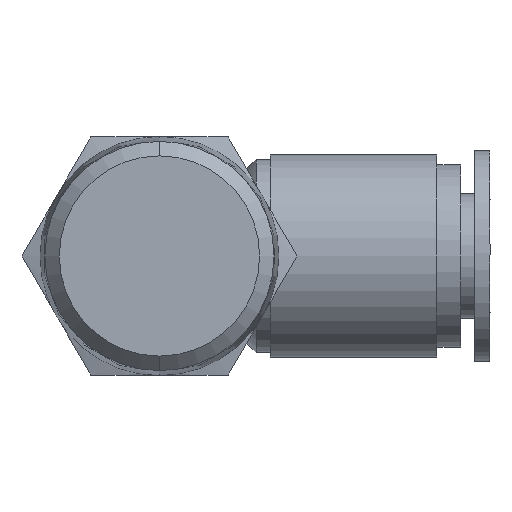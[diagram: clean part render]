
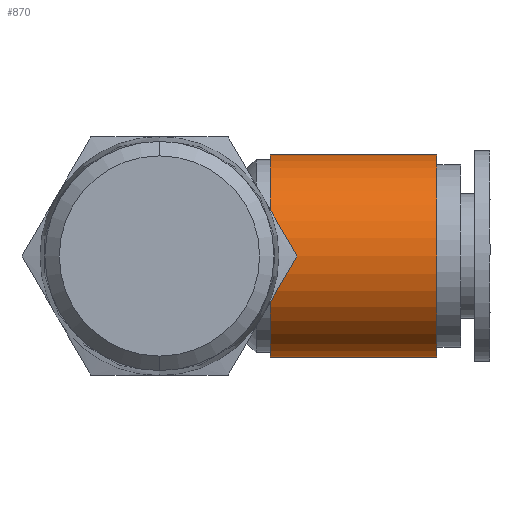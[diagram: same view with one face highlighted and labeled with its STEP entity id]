
A CAD part, front view. The second image highlights one B-rep face of the part: STEP entity #870.
In plain terms, the highlighted cylindrical face has radius 7.25 mm (diameter 14.5 mm), a partial arc.
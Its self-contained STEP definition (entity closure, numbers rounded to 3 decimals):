
#18 = CARTESIAN_POINT ( 'NONE',  ( -0.433, 23.6, 0. ) ) ;
#46 = DIRECTION ( 'NONE',  ( 0., 0., 1. ) ) ;
#112 = EDGE_CURVE ( 'NONE', #1556, #1249, #1151, .T. ) ;
#123 = ORIENTED_EDGE ( 'NONE', *, *, #112, .F. ) ;
#222 = DIRECTION ( 'NONE',  ( -1., 0., 0. ) ) ;
#233 = ORIENTED_EDGE ( 'NONE', *, *, #1389, .F. ) ;
#314 = LINE ( 'NONE', #1374, #949 ) ;
#317 = LINE ( 'NONE', #668, #525 ) ;
#400 = ORIENTED_EDGE ( 'NONE', *, *, #748, .T. ) ;
#525 = VECTOR ( 'NONE', #632, 1000. ) ;
#545 = EDGE_CURVE ( 'NONE', #858, #556, #1065, .T. ) ;
#556 = VERTEX_POINT ( 'NONE', #1110 ) ;
#632 = DIRECTION ( 'NONE',  ( -1., 0., 0. ) ) ;
#668 = CARTESIAN_POINT ( 'NONE',  ( -0.433, 23.6, 7.25 ) ) ;
#692 = ORIENTED_EDGE ( 'NONE', *, *, #545, .T. ) ;
#722 = CARTESIAN_POINT ( 'NONE',  ( 19.8, 23.6, 0. ) ) ;
#747 = CARTESIAN_POINT ( 'NONE',  ( 7.9, 23.6, -7.25 ) ) ;
#748 = EDGE_CURVE ( 'NONE', #556, #1249, #317, .T. ) ;
#829 = DIRECTION ( 'NONE',  ( -1., 0., 0. ) ) ;
#849 = DIRECTION ( 'NONE',  ( 0., 0., 1. ) ) ;
#851 = AXIS2_PLACEMENT_3D ( 'NONE', #18, #829, #46 ) ;
#855 = DIRECTION ( 'NONE',  ( -1., 0., 0. ) ) ;
#858 = VERTEX_POINT ( 'NONE', #1278 ) ;
#870 = ADVANCED_FACE ( 'NONE', ( #1603 ), #1189, .T. ) ;
#949 = VECTOR ( 'NONE', #855, 1000. ) ;
#1065 = CIRCLE ( 'NONE', #1177, 7.25 ) ;
#1074 = CARTESIAN_POINT ( 'NONE',  ( 7.9, 23.6, 7.25 ) ) ;
#1110 = CARTESIAN_POINT ( 'NONE',  ( 19.8, 23.6, 7.25 ) ) ;
#1126 = DIRECTION ( 'NONE',  ( 0., 0., 1. ) ) ;
#1151 = CIRCLE ( 'NONE', #1355, 7.25 ) ;
#1177 = AXIS2_PLACEMENT_3D ( 'NONE', #722, #1618, #849 ) ;
#1189 = CYLINDRICAL_SURFACE ( 'NONE', #851, 7.25 ) ;
#1249 = VERTEX_POINT ( 'NONE', #1074 ) ;
#1278 = CARTESIAN_POINT ( 'NONE',  ( 19.8, 23.6, -7.25 ) ) ;
#1355 = AXIS2_PLACEMENT_3D ( 'NONE', #1372, #222, #1126 ) ;
#1372 = CARTESIAN_POINT ( 'NONE',  ( 7.9, 23.6, 0. ) ) ;
#1374 = CARTESIAN_POINT ( 'NONE',  ( -0.433, 23.6, -7.25 ) ) ;
#1389 = EDGE_CURVE ( 'NONE', #858, #1556, #314, .T. ) ;
#1556 = VERTEX_POINT ( 'NONE', #747 ) ;
#1583 = EDGE_LOOP ( 'NONE', ( #233, #692, #400, #123 ) ) ;
#1603 = FACE_OUTER_BOUND ( 'NONE', #1583, .T. ) ;
#1618 = DIRECTION ( 'NONE',  ( -1., 0., 0. ) ) ;
